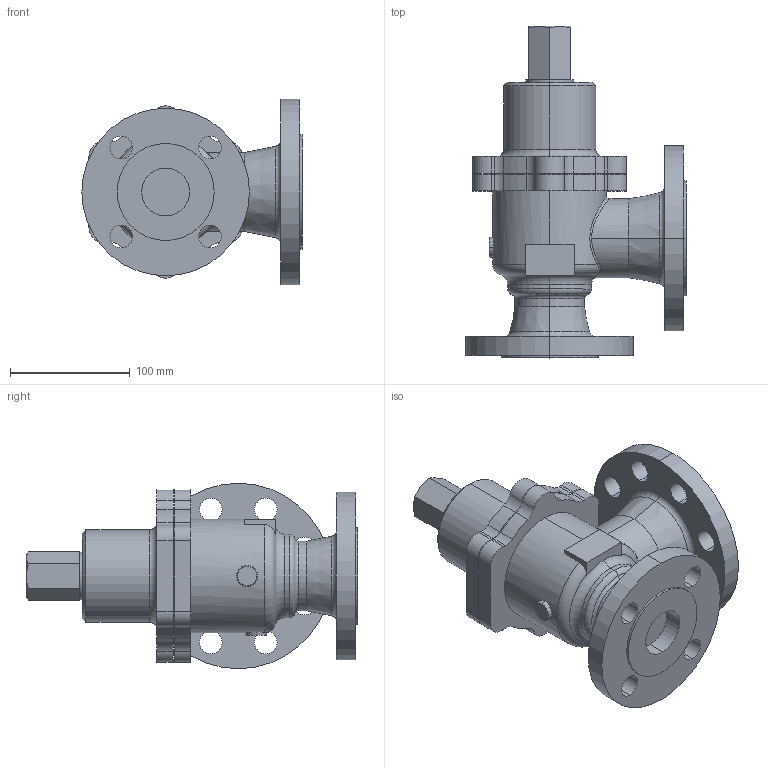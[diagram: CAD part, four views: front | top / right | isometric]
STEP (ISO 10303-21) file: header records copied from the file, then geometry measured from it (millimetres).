
FILE_DESCRIPTION (( 'STEP AP203' ), '1' );
FILE_NAME ('AL-31H 40A.STEP', '2026-01-13T07:19:29', ( '' ), ( '' ), 'SwSTEP 2.0', 'SolidWorks 2024', '' );
FILE_SCHEMA (( 'CONFIG_CONTROL_DESIGN' ));
Length unit declared in the file: millimetre
Products named in the file (1): AL-31H 40A
Bounding box: 184 x 277.3 x 155 mm (x, y, z)
Volume: 2050394.8 mm3; surface area: 190362 mm2
Topology: 1 solids, 1 shells, 170 faces, 428 edges, 272 vertices
Faces by surface type: cylinder 96, plane 44, torus 14, cone 12, bspline 4
Entity records: 6453 total; most frequent: CARTESIAN_POINT 2091, DIRECTION 981, ORIENTED_EDGE 856, EDGE_CURVE 428, AXIS2_PLACEMENT_3D 413, VERTEX_POINT 272, CIRCLE 246, EDGE_LOOP 206
